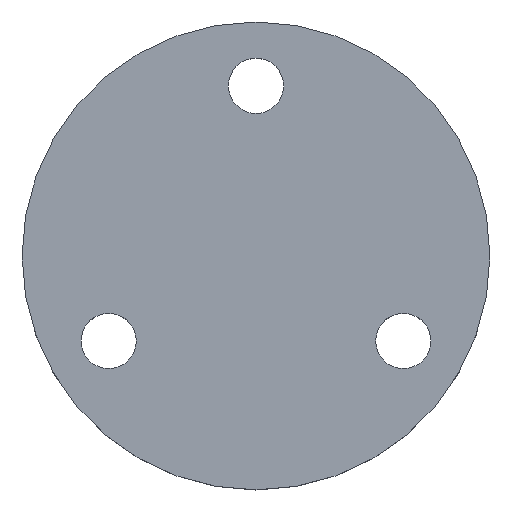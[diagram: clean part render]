
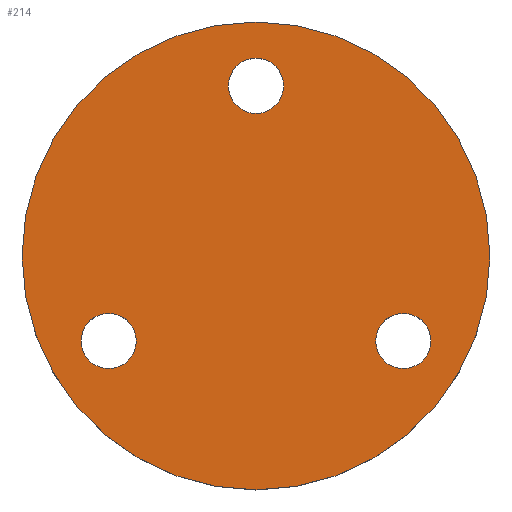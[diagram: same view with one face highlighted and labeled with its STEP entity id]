
A CAD part, top view. The second image highlights one B-rep face of the part: STEP entity #214.
In plain terms, the highlighted planar face has unit normal (0, 0, 1).
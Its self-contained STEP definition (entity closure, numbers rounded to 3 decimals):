
#24 = VERTEX_POINT('',#25);
#25 = CARTESIAN_POINT('',(0.,11.,17.));
#32 = CYLINDRICAL_SURFACE('',#33,11.);
#33 = AXIS2_PLACEMENT_3D('',#34,#35,#36);
#34 = CARTESIAN_POINT('',(0.,0.,13.5));
#35 = DIRECTION('',(-0.,0.,-1.));
#36 = DIRECTION('',(0.,1.,0.));
#51 = EDGE_CURVE('',#24,#24,#52,.T.);
#52 = SURFACE_CURVE('',#53,(#58,#65),.PCURVE_S1.);
#53 = CIRCLE('',#54,11.);
#54 = AXIS2_PLACEMENT_3D('',#55,#56,#57);
#55 = CARTESIAN_POINT('',(0.,0.,17.));
#56 = DIRECTION('',(0.,-0.,1.));
#57 = DIRECTION('',(0.,1.,0.));
#58 = PCURVE('',#32,#59);
#59 = DEFINITIONAL_REPRESENTATION('',(#60),#64);
#60 = LINE('',#61,#62);
#61 = CARTESIAN_POINT('',(-0.,-3.5));
#62 = VECTOR('',#63,1.);
#63 = DIRECTION('',(-1.,0.));
#64 = ( GEOMETRIC_REPRESENTATION_CONTEXT(2) 
PARAMETRIC_REPRESENTATION_CONTEXT() REPRESENTATION_CONTEXT('2D SPACE',''
  ) );
#65 = PCURVE('',#66,#71);
#66 = PLANE('',#67);
#67 = AXIS2_PLACEMENT_3D('',#68,#69,#70);
#68 = CARTESIAN_POINT('',(0.,0.,17.));
#69 = DIRECTION('',(0.,0.,1.));
#70 = DIRECTION('',(1.,0.,-0.));
#71 = DEFINITIONAL_REPRESENTATION('',(#72),#76);
#72 = CIRCLE('',#73,11.);
#73 = AXIS2_PLACEMENT_2D('',#74,#75);
#74 = CARTESIAN_POINT('',(0.,0.));
#75 = DIRECTION('',(0.,1.));
#76 = ( GEOMETRIC_REPRESENTATION_CONTEXT(2) 
PARAMETRIC_REPRESENTATION_CONTEXT() REPRESENTATION_CONTEXT('2D SPACE',''
  ) );
#133 = CYLINDRICAL_SURFACE('',#134,1.3);
#134 = AXIS2_PLACEMENT_3D('',#135,#136,#137);
#135 = CARTESIAN_POINT('',(-6.928,-4.,12.5));
#136 = DIRECTION('',(-0.,0.,-1.));
#137 = DIRECTION('',(0.,1.,0.));
#168 = CYLINDRICAL_SURFACE('',#169,1.3);
#169 = AXIS2_PLACEMENT_3D('',#170,#171,#172);
#170 = CARTESIAN_POINT('',(6.928,-4.,12.5));
#171 = DIRECTION('',(-0.,0.,-1.));
#172 = DIRECTION('',(0.,1.,0.));
#203 = CYLINDRICAL_SURFACE('',#204,1.3);
#204 = AXIS2_PLACEMENT_3D('',#205,#206,#207);
#205 = CARTESIAN_POINT('',(0.,8.,12.5));
#206 = DIRECTION('',(-0.,0.,-1.));
#207 = DIRECTION('',(0.,1.,0.));
#214 = ADVANCED_FACE('',(#215,#218,#248,#278),#66,.T.);
#215 = FACE_BOUND('',#216,.T.);
#216 = EDGE_LOOP('',(#217));
#217 = ORIENTED_EDGE('',*,*,#51,.T.);
#218 = FACE_BOUND('',#219,.T.);
#219 = EDGE_LOOP('',(#220));
#220 = ORIENTED_EDGE('',*,*,#221,.T.);
#221 = EDGE_CURVE('',#222,#222,#224,.T.);
#222 = VERTEX_POINT('',#223);
#223 = CARTESIAN_POINT('',(-6.928,-2.7,17.));
#224 = SURFACE_CURVE('',#225,(#230,#241),.PCURVE_S1.);
#225 = CIRCLE('',#226,1.3);
#226 = AXIS2_PLACEMENT_3D('',#227,#228,#229);
#227 = CARTESIAN_POINT('',(-6.928,-4.,17.));
#228 = DIRECTION('',(-0.,0.,-1.));
#229 = DIRECTION('',(0.,1.,0.));
#230 = PCURVE('',#66,#231);
#231 = DEFINITIONAL_REPRESENTATION('',(#232),#240);
#232 = ( BOUNDED_CURVE() B_SPLINE_CURVE(2,(#233,#234,#235,#236,#237,#238
,#239),.UNSPECIFIED.,.T.,.F.) B_SPLINE_CURVE_WITH_KNOTS((1,2,2,2,2,1),(
    -2.094,0.,2.094,4.189,6.283,
8.378),.UNSPECIFIED.) CURVE() GEOMETRIC_REPRESENTATION_ITEM() 
RATIONAL_B_SPLINE_CURVE((1.,0.5,1.,0.5,1.,0.5,1.)) REPRESENTATION_ITEM(
  '') );
#233 = CARTESIAN_POINT('',(-6.928,-2.7));
#234 = CARTESIAN_POINT('',(-4.677,-2.7));
#235 = CARTESIAN_POINT('',(-5.802,-4.65));
#236 = CARTESIAN_POINT('',(-6.928,-6.6));
#237 = CARTESIAN_POINT('',(-8.054,-4.65));
#238 = CARTESIAN_POINT('',(-9.18,-2.7));
#239 = CARTESIAN_POINT('',(-6.928,-2.7));
#240 = ( GEOMETRIC_REPRESENTATION_CONTEXT(2) 
PARAMETRIC_REPRESENTATION_CONTEXT() REPRESENTATION_CONTEXT('2D SPACE',''
  ) );
#241 = PCURVE('',#133,#242);
#242 = DEFINITIONAL_REPRESENTATION('',(#243),#247);
#243 = LINE('',#244,#245);
#244 = CARTESIAN_POINT('',(-6.283,-4.5));
#245 = VECTOR('',#246,1.);
#246 = DIRECTION('',(1.,-0.));
#247 = ( GEOMETRIC_REPRESENTATION_CONTEXT(2) 
PARAMETRIC_REPRESENTATION_CONTEXT() REPRESENTATION_CONTEXT('2D SPACE',''
  ) );
#248 = FACE_BOUND('',#249,.T.);
#249 = EDGE_LOOP('',(#250));
#250 = ORIENTED_EDGE('',*,*,#251,.T.);
#251 = EDGE_CURVE('',#252,#252,#254,.T.);
#252 = VERTEX_POINT('',#253);
#253 = CARTESIAN_POINT('',(6.928,-2.7,17.));
#254 = SURFACE_CURVE('',#255,(#260,#271),.PCURVE_S1.);
#255 = CIRCLE('',#256,1.3);
#256 = AXIS2_PLACEMENT_3D('',#257,#258,#259);
#257 = CARTESIAN_POINT('',(6.928,-4.,17.));
#258 = DIRECTION('',(-0.,0.,-1.));
#259 = DIRECTION('',(0.,1.,0.));
#260 = PCURVE('',#66,#261);
#261 = DEFINITIONAL_REPRESENTATION('',(#262),#270);
#262 = ( BOUNDED_CURVE() B_SPLINE_CURVE(2,(#263,#264,#265,#266,#267,#268
,#269),.UNSPECIFIED.,.T.,.F.) B_SPLINE_CURVE_WITH_KNOTS((1,2,2,2,2,1),(
    -2.094,0.,2.094,4.189,6.283,
8.378),.UNSPECIFIED.) CURVE() GEOMETRIC_REPRESENTATION_ITEM() 
RATIONAL_B_SPLINE_CURVE((1.,0.5,1.,0.5,1.,0.5,1.)) REPRESENTATION_ITEM(
  '') );
#263 = CARTESIAN_POINT('',(6.928,-2.7));
#264 = CARTESIAN_POINT('',(9.18,-2.7));
#265 = CARTESIAN_POINT('',(8.054,-4.65));
#266 = CARTESIAN_POINT('',(6.928,-6.6));
#267 = CARTESIAN_POINT('',(5.802,-4.65));
#268 = CARTESIAN_POINT('',(4.677,-2.7));
#269 = CARTESIAN_POINT('',(6.928,-2.7));
#270 = ( GEOMETRIC_REPRESENTATION_CONTEXT(2) 
PARAMETRIC_REPRESENTATION_CONTEXT() REPRESENTATION_CONTEXT('2D SPACE',''
  ) );
#271 = PCURVE('',#168,#272);
#272 = DEFINITIONAL_REPRESENTATION('',(#273),#277);
#273 = LINE('',#274,#275);
#274 = CARTESIAN_POINT('',(-6.283,-4.5));
#275 = VECTOR('',#276,1.);
#276 = DIRECTION('',(1.,-0.));
#277 = ( GEOMETRIC_REPRESENTATION_CONTEXT(2) 
PARAMETRIC_REPRESENTATION_CONTEXT() REPRESENTATION_CONTEXT('2D SPACE',''
  ) );
#278 = FACE_BOUND('',#279,.T.);
#279 = EDGE_LOOP('',(#280));
#280 = ORIENTED_EDGE('',*,*,#281,.T.);
#281 = EDGE_CURVE('',#282,#282,#284,.T.);
#282 = VERTEX_POINT('',#283);
#283 = CARTESIAN_POINT('',(0.,9.3,17.));
#284 = SURFACE_CURVE('',#285,(#290,#301),.PCURVE_S1.);
#285 = CIRCLE('',#286,1.3);
#286 = AXIS2_PLACEMENT_3D('',#287,#288,#289);
#287 = CARTESIAN_POINT('',(0.,8.,17.));
#288 = DIRECTION('',(-0.,0.,-1.));
#289 = DIRECTION('',(0.,1.,0.));
#290 = PCURVE('',#66,#291);
#291 = DEFINITIONAL_REPRESENTATION('',(#292),#300);
#292 = ( BOUNDED_CURVE() B_SPLINE_CURVE(2,(#293,#294,#295,#296,#297,#298
,#299),.UNSPECIFIED.,.T.,.F.) B_SPLINE_CURVE_WITH_KNOTS((1,2,2,2,2,1),(
    -2.094,0.,2.094,4.189,6.283,
8.378),.UNSPECIFIED.) CURVE() GEOMETRIC_REPRESENTATION_ITEM() 
RATIONAL_B_SPLINE_CURVE((1.,0.5,1.,0.5,1.,0.5,1.)) REPRESENTATION_ITEM(
  '') );
#293 = CARTESIAN_POINT('',(0.,9.3));
#294 = CARTESIAN_POINT('',(2.252,9.3));
#295 = CARTESIAN_POINT('',(1.126,7.35));
#296 = CARTESIAN_POINT('',(0.,5.4));
#297 = CARTESIAN_POINT('',(-1.126,7.35));
#298 = CARTESIAN_POINT('',(-2.252,9.3));
#299 = CARTESIAN_POINT('',(0.,9.3));
#300 = ( GEOMETRIC_REPRESENTATION_CONTEXT(2) 
PARAMETRIC_REPRESENTATION_CONTEXT() REPRESENTATION_CONTEXT('2D SPACE',''
  ) );
#301 = PCURVE('',#203,#302);
#302 = DEFINITIONAL_REPRESENTATION('',(#303),#307);
#303 = LINE('',#304,#305);
#304 = CARTESIAN_POINT('',(-6.283,-4.5));
#305 = VECTOR('',#306,1.);
#306 = DIRECTION('',(1.,-0.));
#307 = ( GEOMETRIC_REPRESENTATION_CONTEXT(2) 
PARAMETRIC_REPRESENTATION_CONTEXT() REPRESENTATION_CONTEXT('2D SPACE',''
  ) );
